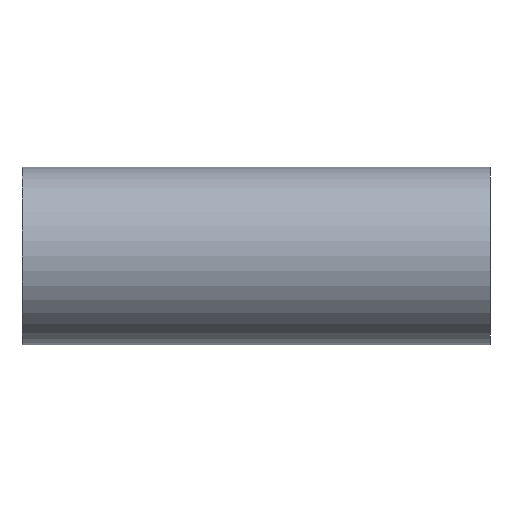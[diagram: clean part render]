
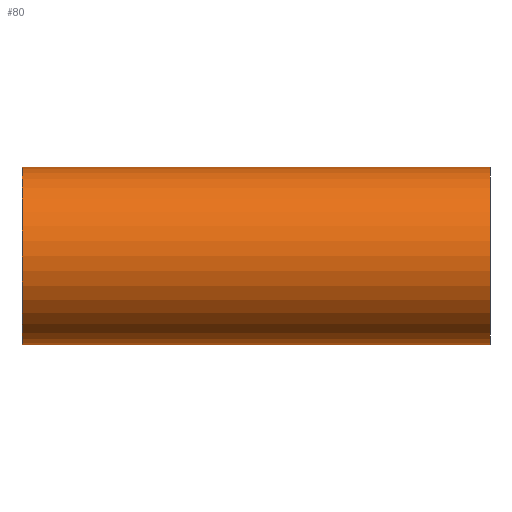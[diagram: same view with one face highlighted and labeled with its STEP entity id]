
A CAD part, front view. The second image highlights one B-rep face of the part: STEP entity #80.
In plain terms, the highlighted cylindrical face has radius 57.15 mm (diameter 114.3 mm), a partial arc.
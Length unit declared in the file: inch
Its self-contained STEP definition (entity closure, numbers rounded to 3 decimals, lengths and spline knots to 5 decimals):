
#10 = DIRECTION ( 'NONE',  ( 0., 0., -1. ) ) ;
#16 = VERTEX_POINT ( 'NONE', #222 ) ;
#20 = DIRECTION ( 'NONE',  ( 0., 0., -1. ) ) ;
#31 = EDGE_LOOP ( 'NONE', ( #50, #218, #47, #134 ) ) ;
#33 = CARTESIAN_POINT ( 'NONE',  ( 11.875, 0., 0. ) ) ;
#38 = CARTESIAN_POINT ( 'NONE',  ( 0., 0., -2.25 ) ) ;
#39 = CARTESIAN_POINT ( 'NONE',  ( 11.875, 0., 0. ) ) ;
#40 = CARTESIAN_POINT ( 'NONE',  ( 11.875, 0., -2.25 ) ) ;
#42 = LINE ( 'NONE', #43, #81 ) ;
#43 = CARTESIAN_POINT ( 'NONE',  ( 11.875, 0., 2.25 ) ) ;
#44 = VECTOR ( 'NONE', #161, 39.37008 ) ;
#45 = EDGE_CURVE ( 'NONE', #203, #184, #148, .T. ) ;
#47 = ORIENTED_EDGE ( 'NONE', *, *, #199, .T. ) ;
#50 = ORIENTED_EDGE ( 'NONE', *, *, #213, .F. ) ;
#57 = DIRECTION ( 'NONE',  ( -1., 0., 0. ) ) ;
#60 = DIRECTION ( 'NONE',  ( -1., 0., 0. ) ) ;
#63 = AXIS2_PLACEMENT_3D ( 'NONE', #33, #147, #10 ) ;
#80 = ADVANCED_FACE ( 'NONE', ( #136 ), #209, .T. ) ;
#81 = VECTOR ( 'NONE', #60, 39.37008 ) ;
#101 = CIRCLE ( 'NONE', #198, 2.25 ) ;
#105 = AXIS2_PLACEMENT_3D ( 'NONE', #39, #57, #109 ) ;
#109 = DIRECTION ( 'NONE',  ( 0., 0., 1. ) ) ;
#112 = CARTESIAN_POINT ( 'NONE',  ( 11.875, 0., 2.25 ) ) ;
#113 = CARTESIAN_POINT ( 'NONE',  ( 11.875, 0., -2.25 ) ) ;
#134 = ORIENTED_EDGE ( 'NONE', *, *, #145, .T. ) ;
#136 = FACE_OUTER_BOUND ( 'NONE', #31, .T. ) ;
#145 = EDGE_CURVE ( 'NONE', #16, #151, #101, .T. ) ;
#147 = DIRECTION ( 'NONE',  ( 1., 0., 0. ) ) ;
#148 = CIRCLE ( 'NONE', #63, 2.25 ) ;
#151 = VERTEX_POINT ( 'NONE', #38 ) ;
#161 = DIRECTION ( 'NONE',  ( -1., 0., 0. ) ) ;
#173 = CARTESIAN_POINT ( 'NONE',  ( 0., 0., 0. ) ) ;
#175 = DIRECTION ( 'NONE',  ( 1., 0., 0. ) ) ;
#178 = LINE ( 'NONE', #113, #44 ) ;
#184 = VERTEX_POINT ( 'NONE', #40 ) ;
#198 = AXIS2_PLACEMENT_3D ( 'NONE', #173, #175, #20 ) ;
#199 = EDGE_CURVE ( 'NONE', #203, #16, #42, .T. ) ;
#203 = VERTEX_POINT ( 'NONE', #112 ) ;
#209 = CYLINDRICAL_SURFACE ( 'NONE', #105, 2.25 ) ;
#213 = EDGE_CURVE ( 'NONE', #184, #151, #178, .T. ) ;
#218 = ORIENTED_EDGE ( 'NONE', *, *, #45, .F. ) ;
#222 = CARTESIAN_POINT ( 'NONE',  ( 0., 0., 2.25 ) ) ;
